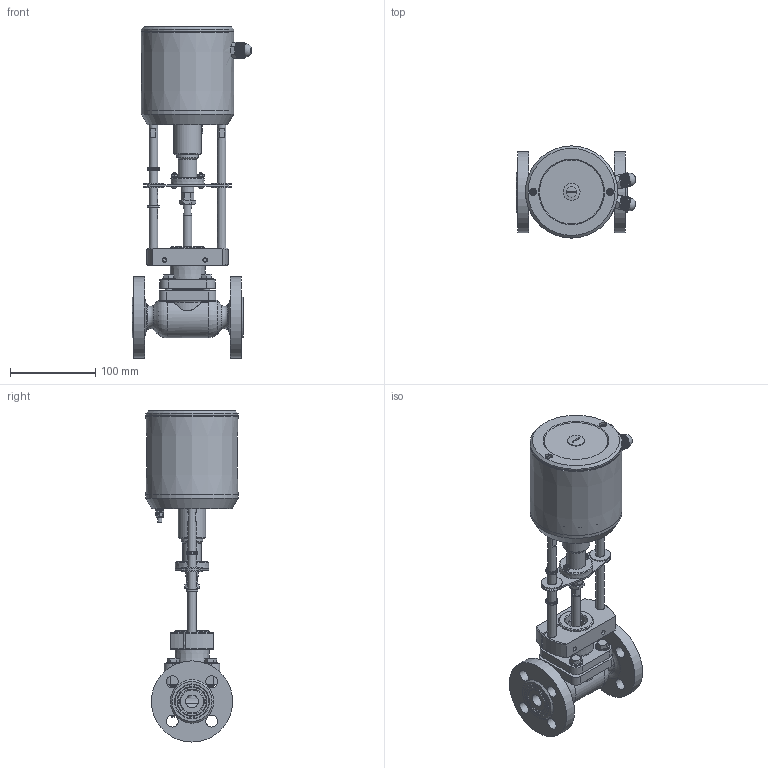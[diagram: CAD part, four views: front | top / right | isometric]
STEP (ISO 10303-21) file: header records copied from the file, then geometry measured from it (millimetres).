
FILE_DESCRIPTION(('STEP AP203'), '1');
FILE_NAME('ÊÏÑ-2 Äó 15 ñ ÝÏ-100-01', '', ('UNSPECIFIED'), ('UNSPECIFIED'), 'ASCON STEP Converter 1.3', 'ASCON Math Kernel', '');
FILE_SCHEMA(('CONFIG_CONTROL_DESIGN'));
Length unit declared in the file: millimetre
Bounding box: 140.44 x 108 x 388.92 mm (x, y, z)
Volume: 878747.7 mm3; surface area: 306725.5 mm2
Topology: 22 solids, 26 shells, 2033 faces, 5244 edges, 3408 vertices
Faces by surface type: cylinder 903, plane 827, cone 196, bspline 62, torus 36, sphere 5, revolution 4
Full cylindrical faces by diameter (mm): 1.7 x2, 2 x2, 2.8 x2, 3.3 x2, 3.341 x3, 3.5 x4, 3.8 x2, 4 x6, 4.2 x2, 4.8 x2, 4.999 x6, 5 x14, 5.199 x3, 5.3 x3, 5.4 x3, 5.999 x3, 6 x6, 6.2 x2, 6.647 x2, 6.793 x2, 7 x4, 7.5 x1, 8 x11, 8.2 x2, 8.4 x6, 8.5 x2, 9.2 x4, 9.5 x1, 9.6 x2, 9.981 x1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
Entity records: 110268 total; most frequent: CARTESIAN_POINT 46544, ORIENTED_EDGE 9614, DIRECTION 9407, EDGE_CURVE 4807, AXIS2_PLACEMENT_3D 3688, VERTEX_POINT 3400, EDGE_LOOP 2709, COLOUR_RGB 2050
